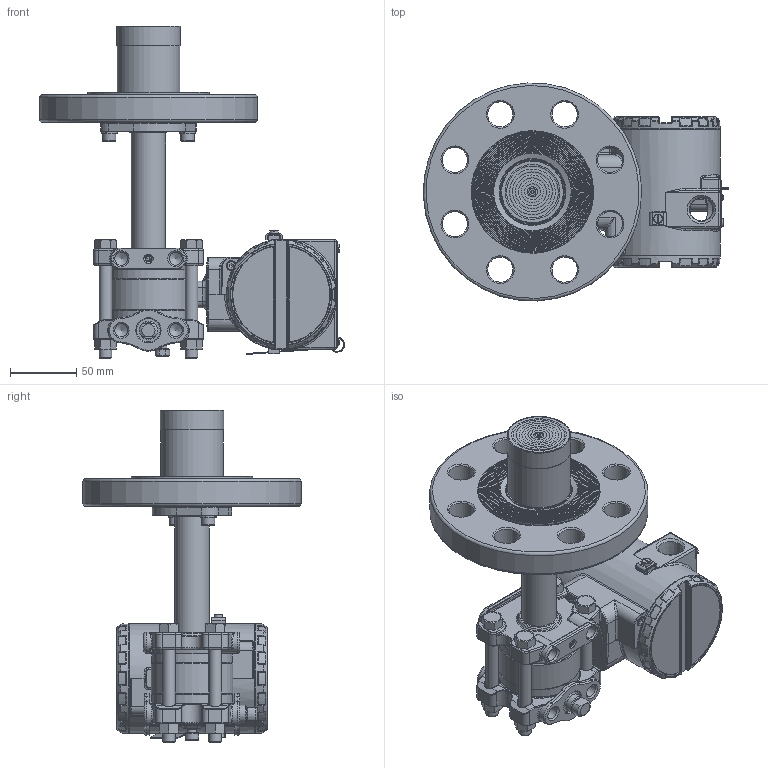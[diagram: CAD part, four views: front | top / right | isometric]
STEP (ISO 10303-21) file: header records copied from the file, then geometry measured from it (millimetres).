
FILE_DESCRIPTION(/* description */ (''),/* implementation_level */ '2;1');
FILE_NAME(/* name */ 'F:\Area\Desenvolvimento_2\Projects\Sensor\projetos\LD30X\montagens 3d - clientes\SELO NIVEL\LD30XL 2-300 RF ext 50 ref 1-4NPT purga acima.stp',/* time_stamp */ '2023-02-10T15:53:28-03:00',/* author */ ('inventor02'),/* organization */ (''),/* preprocessor_version */ 'ST-DEVELOPER v17',/* originating_system */ 'Autodesk Inventor 2019',/* authorisation */ '');
FILE_SCHEMA (('CONFIG_CONTROL_DESIGN'));
Products named in the file (41): LD30XL 2-300 RF ext 50 ref 1-4NPT purga acima; 204-0301-L-2 300 RF ext 50 purga acima; nivel fx3 com baixa diferencial 1-4NPT purga acima; involucro fx0-3 apos a usinagem final; flange diferencial std purga; 101-C-7484-01 flange selo nivel VR; 201-A-0504-tubo união teste 1; bujao 1-4NPT; Sangria; Porca 3-8 x 16 UNC; Paraf. 3-8 x 16 UNC; adaptação tubo x flanges 1-1-2 a 4pol; 101-B-0161-anel cortado do tubo - teste1; 101-B-0162-flange fixação tubo; ANSI B18.3.1M - M6x1 x 16; DIN 127 - A 6; flange 2 300 ext 50; 101-C-0117-10; 101-B-7700-01-50; 101-B-0168-11; carcaça vazia com tampas e plaqueta; carcaça LD inox sem letras; Subconjunto plaqueta 300; Plaqueta transmissor; Parafuso da Plaqueta; Rebite da Plaqueta; 096-A-0169-03; 101-A-0502-01; Chapa aterramento externo; ISO 1207 - M4 x 8; DIN 915 - M6 x 10; ANSI B18.3.1M - M4x0,7 x 8; Subconjunto tampa com visor aluminio; tampa pintada; VIDRO DO VISOR; oring 41x1 vidro tampa; Trava do vidro da tampa com visor; trava do vidro VH256; Subconjunto tampa sem visor-aluminio; tampa cega 300 pintada p0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
Assembly tree (51 placements, depth 4):
  LD30XL 2-300 RF ext 50 ref 1-4NPT purga acima
    204-0301-L-2 300 RF ext 50 purga acima
      nivel fx3 com baixa diferencial 1-4NPT purga acima
        involucro fx0-3 apos a usinagem final
        flange diferencial std purga
        101-C-7484-01 flange selo nivel VR
        201-A-0504-tubo união teste 1
        DIN 915 - M6 x 10
        bujao 1-4NPT
        Sangria
        Porca 3-8 x 16 UNC  x4
        Paraf. 3-8 x 16 UNC  x4
      adaptação tubo x flanges 1-1-2 a 4pol
        101-B-0161-anel cortado do tubo - teste1
        101-B-0162-flange fixação tubo
        ANSI B18.3.1M - M6x1 x 16  x2
        DIN 127 - A 6  x2
      flange 2 300 ext 50
        101-C-0117-10
        101-B-7700-01-50
        101-B-0168-11
    carcaça vazia com tampas e plaqueta
      carcaça LD inox sem letras
      Subconjunto plaqueta 300
        Plaqueta transmissor
        Parafuso da Plaqueta
        Rebite da Plaqueta
        096-A-0169-03
        101-A-0502-01
      Chapa aterramento externo
      ISO 1207 - M4 x 8
      DIN 915 - M6 x 10
      ANSI B18.3.1M - M4x0,7 x 8  x2
      Subconjunto tampa com visor aluminio
        tampa pintada
        VIDRO DO VISOR
        oring 41x1 vidro tampa
        Trava do vidro da tampa com visor
        trava do vidro VH256
        00034775-0
      Subconjunto tampa sem visor-aluminio
        tampa cega 300 pintada p0
        00034775-0
Bounding box: 230.7 x 164.84 x 251 mm (x, y, z)
Volume: 1044481.4 mm3; surface area: 332566.3 mm2
Topology: 43 solids, 43 shells, 2756 faces, 6595 edges, 3904 vertices
Faces by surface type: bspline 666, cylinder 660, plane 569, torus 479, cone 256, sphere 126
Full cylindrical faces by diameter (mm): 2 x4, 2.1 x2, 2.459 x5, 2.5 x1, 2.642 x1, 2.7 x1, 2.8 x1, 3 x4, 3.242 x4, 3.5 x5, 3.571 x1, 4 x5, 4.3 x1, 4.4 x1, 4.917 x4, 5 x1, 5.5 x3, 6 x6, 6.647 x1, 7 x7, 7.087 x2, 7.6 x2, 7.798 x4, 8 x1, 8.7 x2, 9.525 x4, 9.728 x6, 10 x2, 10.5 x8, 10.719 x2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
Entity records: 95071 total; most frequent: CARTESIAN_POINT 34704, DIRECTION 12469, ORIENTED_EDGE 12370, EDGE_CURVE 6185, AXIS2_PLACEMENT_3D 5507, VERTEX_POINT 3710, CIRCLE 3261, EDGE_LOOP 2813
